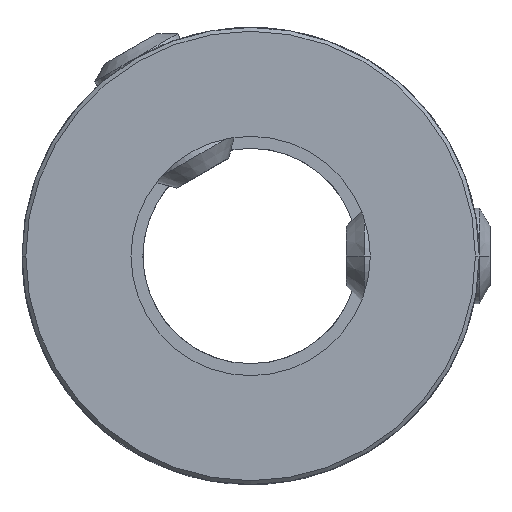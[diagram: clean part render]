
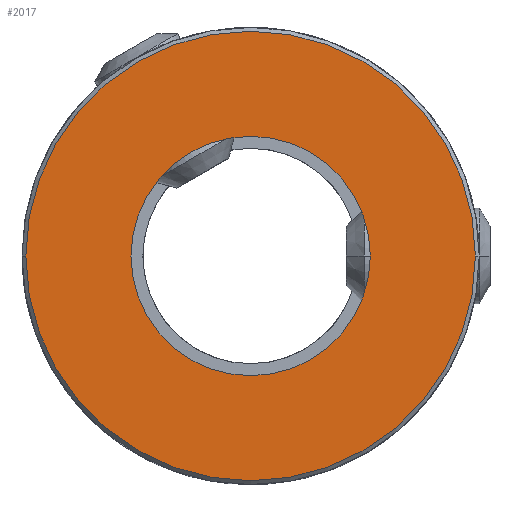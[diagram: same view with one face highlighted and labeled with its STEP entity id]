
A CAD part, front view. The second image highlights one B-rep face of the part: STEP entity #2017.
In plain terms, the highlighted planar face has unit normal (0, -1, 0).
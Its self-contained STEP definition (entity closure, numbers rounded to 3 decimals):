
#1=CARTESIAN_POINT('',(0.,-13.25,
0.));
#2=DIRECTION('',(0.,-1.,0.));
#3=DIRECTION('',(-1.,0.,0.));
#4=AXIS2_PLACEMENT_3D('',#1,#2,#3);
#6=CARTESIAN_POINT('',(0.,-13.25,
0.));
#7=DIRECTION('',(0.,-1.,0.));
#8=DIRECTION('',(1.,0.,0.));
#9=AXIS2_PLACEMENT_3D('',#6,#7,#8);
#11=CARTESIAN_POINT('',(0.,-13.25,0.));
#12=DIRECTION('',(0.,1.,0.));
#13=DIRECTION('',(1.,0.,0.));
#14=AXIS2_PLACEMENT_3D('',#11,#12,#13);
#16=CARTESIAN_POINT('',(0.,-13.25,0.));
#17=DIRECTION('',(0.,1.,0.));
#18=DIRECTION('',(-1.,0.,0.));
#19=AXIS2_PLACEMENT_3D('',#16,#17,#18);
#1817=CARTESIAN_POINT('',(5.,-13.25,0.));
#1818=CARTESIAN_POINT('',(-5.,-13.25,0.));
#1819=VERTEX_POINT('',#1817);
#1820=VERTEX_POINT('',#1818);
#1837=CARTESIAN_POINT('',(-9.39,-13.25,0.));
#1838=CARTESIAN_POINT('',(9.39,-13.25,0.));
#1839=VERTEX_POINT('',#1837);
#1840=VERTEX_POINT('',#1838);
#2000=CARTESIAN_POINT('',(0.,-13.25,0.));
#2001=DIRECTION('',(0.,1.,0.));
#2002=DIRECTION('',(1.,0.,0.));
#2003=AXIS2_PLACEMENT_3D('',#2000,#2001,#2002);
#2004=PLANE('',#2003);
#2006=ORIENTED_EDGE('',*,*,#2005,.F.);
#2008=ORIENTED_EDGE('',*,*,#2007,.F.);
#2009=EDGE_LOOP('',(#2006,#2008));
#2010=FACE_OUTER_BOUND('',#2009,.F.);
#2012=ORIENTED_EDGE('',*,*,#2011,.F.);
#2014=ORIENTED_EDGE('',*,*,#2013,.F.);
#2015=EDGE_LOOP('',(#2012,#2014));
#2016=FACE_BOUND('',#2015,.F.);
#2017=ADVANCED_FACE('',(#2010,#2016),#2004,.F.);
#5=CIRCLE('',#4,9.39);
#10=CIRCLE('',#9,9.39);
#15=CIRCLE('',#14,5.);
#20=CIRCLE('',#19,5.);
#2005=EDGE_CURVE('',#1839,#1840,#5,.T.);
#2007=EDGE_CURVE('',#1840,#1839,#10,.T.);
#2011=EDGE_CURVE('',#1819,#1820,#15,.T.);
#2013=EDGE_CURVE('',#1820,#1819,#20,.T.);
